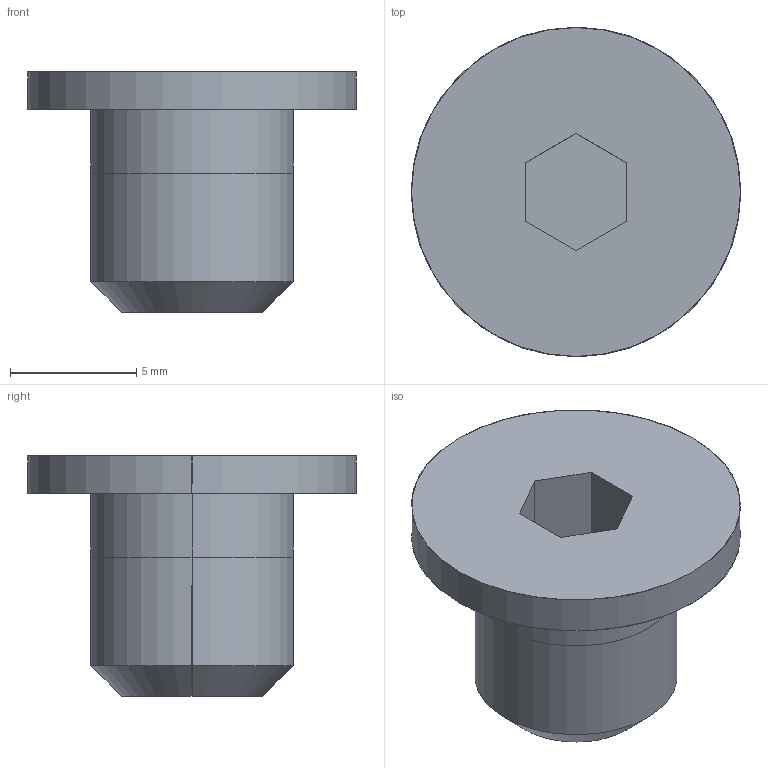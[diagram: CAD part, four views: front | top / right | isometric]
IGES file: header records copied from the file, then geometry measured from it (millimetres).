
Global section: file name: E:\UnigraphicsGraphicData\MISUMI_PRESS-PARTS\IGES\3d_cbss8-8_03504_r00.igs; native system: NX V5.0; preprocessor: UGS NX IGES V5.0; author: MISUMI; date: 20110105.160203; units: millimetre
Bounding box: 13 x 13 x 9.5 mm (x, y, z)
Surface area: 578.3 mm2 (no closed solid volume)
Topology: 0 solids, 0 shells, 18 faces, 100 edges, 100 vertices
Faces by surface type: bspline 18
